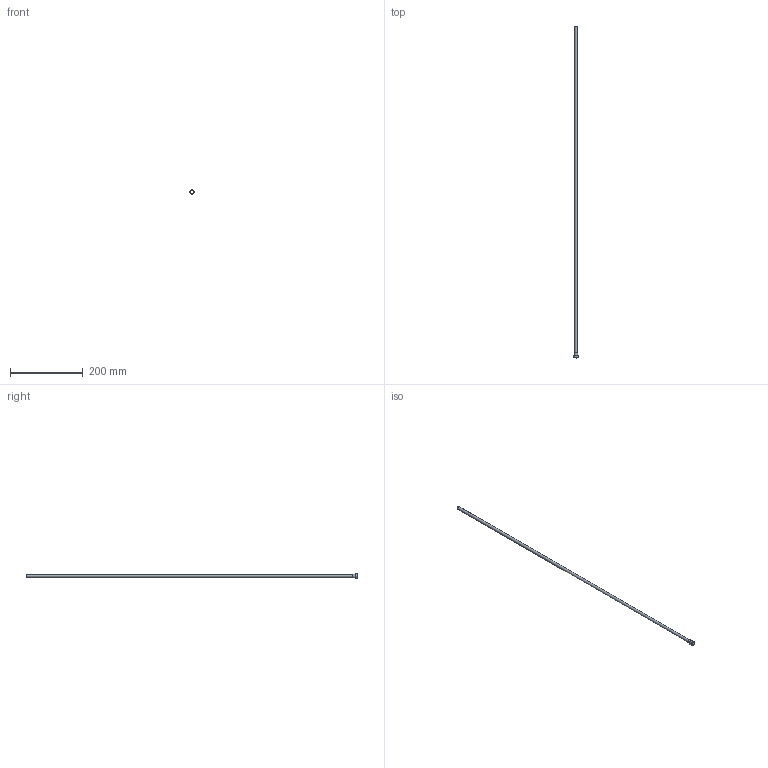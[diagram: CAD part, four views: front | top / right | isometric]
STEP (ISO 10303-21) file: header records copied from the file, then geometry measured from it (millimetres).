
FILE_DESCRIPTION(/* description */ (''),/* implementation_level */ '2;1');
FILE_NAME(/* name */ 'C:/Users/drich/Desktop/R312T-36 v1.step',/* time_stamp */ '2019-12-30T13:18:31-06:00',/* author */ (''),/* organization */ (''),/* preprocessor_version */ 'ST-DEVELOPER v18',/* originating_system */ 'Autodesk Translation Framework v8.12.0.6',/* authorisation */ '');
FILE_SCHEMA (('AUTOMOTIVE_DESIGN { 1 0 10303 214 3 1 1 }'));
Length unit declared in the file: inch
Products named in the file (1): R312T-36
Bounding box: 12.57 x 914.4 x 12.57 mm (x, y, z)
Volume: 7381 mm3; surface area: 44096.2 mm2
Topology: 1 solids, 1 shells, 19 faces, 47 edges, 33 vertices
Faces by surface type: plane 11, cylinder 4, torus 3, cone 1
Full cylindrical faces by diameter (mm): 7.315 x1, 7.925 x1, 9.434 x1, 12.573 x1
Entity records: 624 total; most frequent: DIRECTION 111, CARTESIAN_POINT 100, ORIENTED_EDGE 94, EDGE_CURVE 47, AXIS2_PLACEMENT_3D 44, VERTEX_POINT 33, EDGE_LOOP 24, CIRCLE 24
